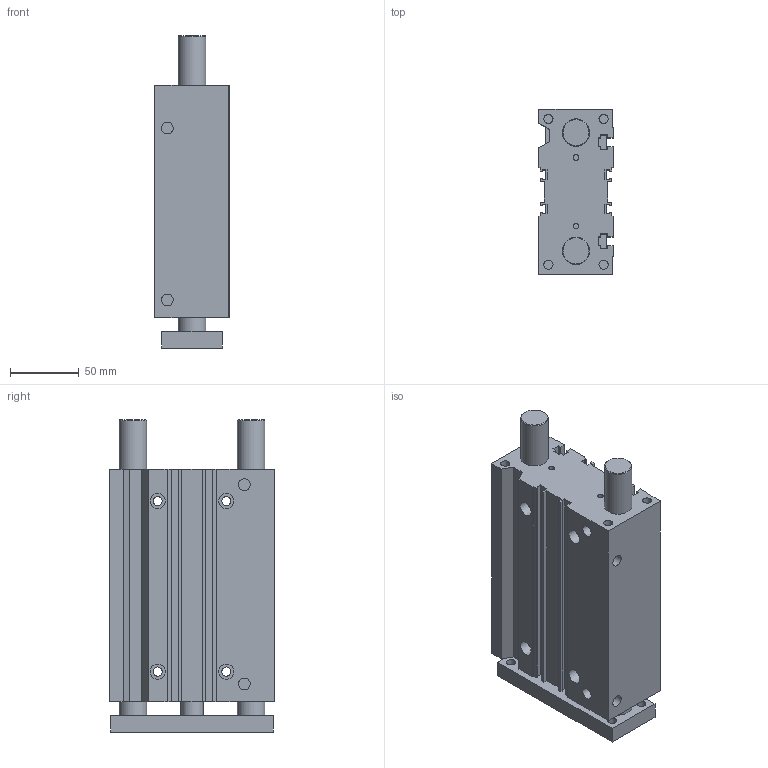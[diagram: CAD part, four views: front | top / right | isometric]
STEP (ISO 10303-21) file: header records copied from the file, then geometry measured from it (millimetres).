
FILE_DESCRIPTION((''),'2;1');
FILE_NAME('I:\Area Tecnica\Disegni\VARIE-3D\Componenti\6100\6100 Ø20-63\6100_##_###_#\6100400125B.stp','2012-01-11T09:09:46',('airolcr1'),(''),'Autodesk Inventor 2012','Autodesk Inventor 2012','');
FILE_SCHEMA(('AUTOMOTIVE_DESIGN { 1 0 10303 214 1 1 1 1 }'));
Length unit declared in the file: millimetre
Products named in the file (3): 6100400125B; CORPO Ø40 C125 B; PIASTRA Ø40 C125 B
Assembly tree (2 placements, depth 2):
  6100400125B
    CORPO Ø40 C125 B
    PIASTRA Ø40 C125 B
Bounding box: 54 x 120 x 227 mm (x, y, z)
Volume: 1091894 mm3; surface area: 171287.2 mm2
Topology: 2 solids, 2 shells, 166 faces, 417 edges, 277 vertices
Faces by surface type: plane 126, cylinder 38, cone 2
Full cylindrical faces by diameter (mm): 4 x6, 6.647 x8, 6.65 x4, 8.566 x4, 11 x4, 16 x2, 20 x4
Entity records: 5013 total; most frequent: CARTESIAN_POINT 815, DIRECTION 798, ORIENTED_EDGE 750, EDGE_CURVE 375, VECTOR 294, LINE 294, VERTEX_POINT 269, AXIS2_PLACEMENT_3D 252
